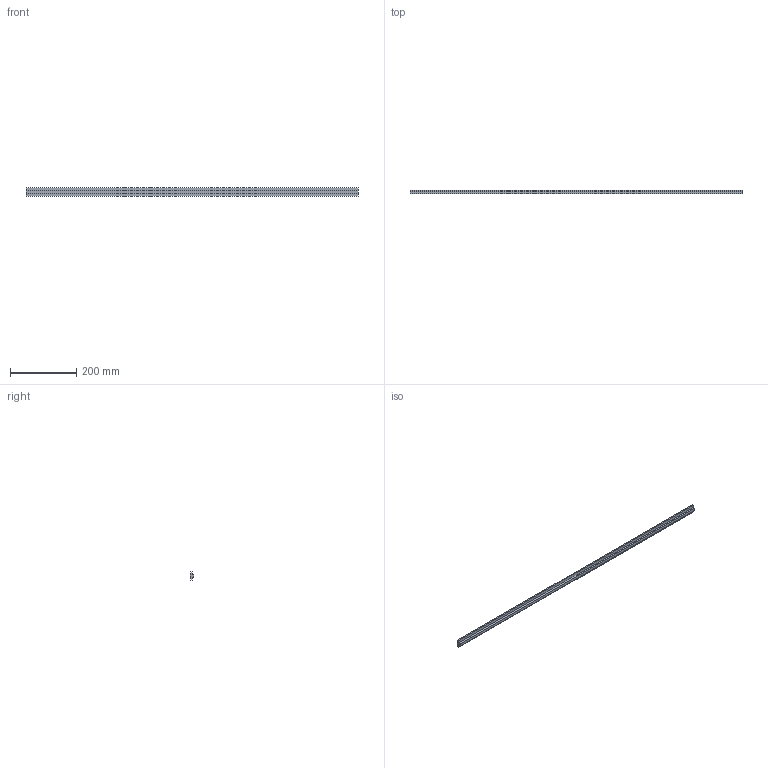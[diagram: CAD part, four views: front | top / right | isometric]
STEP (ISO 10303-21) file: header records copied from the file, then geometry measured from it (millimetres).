
FILE_DESCRIPTION (( 'STEP AP203' ), '1' );
FILE_NAME ('10188_GLEPASS.STEP', '2018-03-08T13:08:12', ( '' ), ( '' ), 'SwSTEP 2.0', 'SolidWorks 2017', '' );
FILE_SCHEMA (( 'CONFIG_CONTROL_DESIGN' ));
Length unit declared in the file: millimetre
Products named in the file (1): 10188_GLEPASS
Bounding box: 1000 x 12 x 25 mm (x, y, z)
Volume: 164000 mm3; surface area: 74328 mm2
Topology: 1 solids, 1 shells, 14 faces, 36 edges, 24 vertices
Faces by surface type: plane 14
Entity records: 497 total; most frequent: CARTESIAN_POINT 75, ORIENTED_EDGE 72, DIRECTION 66, EDGE_CURVE 36, LINE 36, VECTOR 36, VERTEX_POINT 24, AXIS2_PLACEMENT_3D 15
